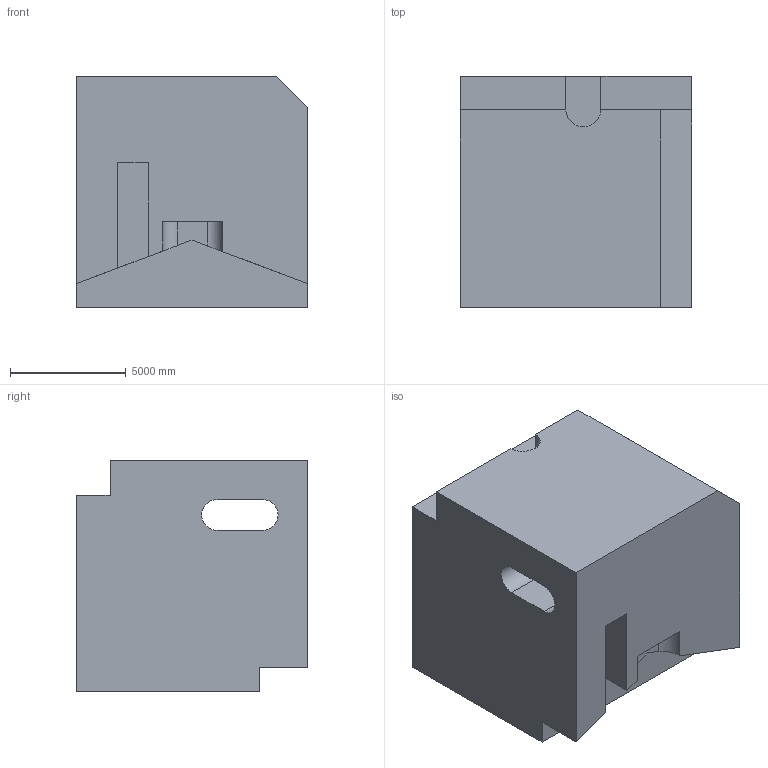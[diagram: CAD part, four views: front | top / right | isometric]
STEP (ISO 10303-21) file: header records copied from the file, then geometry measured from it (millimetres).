
FILE_DESCRIPTION (( 'STEP AP203' ), '1' );
FILE_NAME ('1894.STEP', '2022-08-25T16:22:30', ( 'user' ), ( '' ), 'SwSTEP 2.0', 'SolidWorks 2021', '' );
FILE_SCHEMA (( 'CONFIG_CONTROL_DESIGN' ));
Length unit declared in the file: centimetre
Products named in the file (1): 1894
Bounding box: 10000 x 10000 x 10000 mm (x, y, z)
Volume: 829644691217.7 mm3; surface area: 758235659.9 mm2
Topology: 1 solids, 1 shells, 40 faces, 108 edges, 72 vertices
Faces by surface type: plane 33, cylinder 7
Entity records: 1327 total; most frequent: CARTESIAN_POINT 227, ORIENTED_EDGE 216, DIRECTION 202, EDGE_CURVE 108, LINE 92, VECTOR 92, VERTEX_POINT 72, AXIS2_PLACEMENT_3D 55
